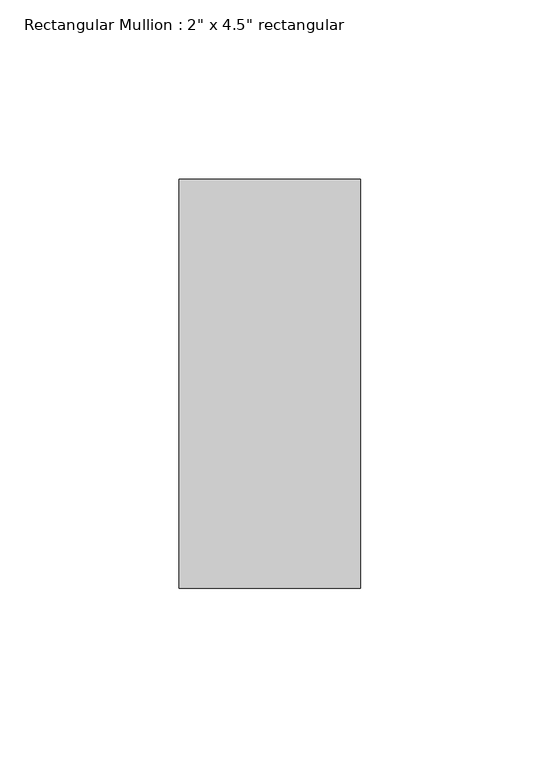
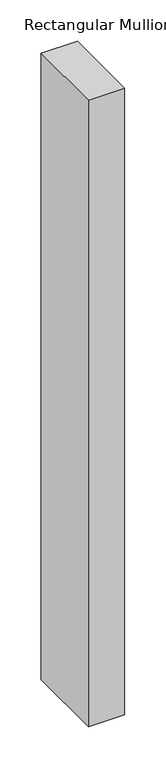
"""IFC4 building model written with IfcOpenShell, lengths in millimetres: member geometry."""

from ifc_helpers import new_model, si_unit, frame, origin, place, context, project, spatial, polyline, outline, extrude, source, transform, mapped, element, save


def member_191f7a6c(model_context):
    return source(origin(), model_context, "Body", "SweptSolid", [
        extrude(outline(polyline([(0.0, 57.15), (0.0, -57.15), (-50.8, -57.15), (-50.8, 57.15), (0.0, 57.15)])), frame((0.0, 0.0, -925.1024484), z_axis=(0.0, 0.0, 1.0), x_axis=(1.0, 0.0, 0.0)), (0.0, 0.0, 1.0), 925.1024484),
    ])


if __name__ == "__main__":
    model = new_model("IFC4")
    model_context = context("Model", 3, world=origin())
    ifc_project = project(units=[si_unit("LENGTHUNIT", "METRE", prefix="MILLI")], contexts=[model_context])
    site = spatial("IfcSite", under=ifc_project)
    building = spatial("IfcBuilding", under=site)
    placement = place(None, origin())
    member_shape = member_191f7a6c(model_context)
    element("IfcMember", 1, ObjectType="Rectangular Mullion : 2\" x 4.5\" rectangular", at=placement, inside=building, context=model_context, shape_type="MappedRepresentation", body=[
        mapped(member_shape, transform((0.0, 0.0, 0.0), x_axis=(1.0, 0.0, 0.0), y_axis=(0.0, 1.0, 0.0), z_axis=(0.0, 0.0, 1.0))),
    ])
    save(model, "model.ifc")
